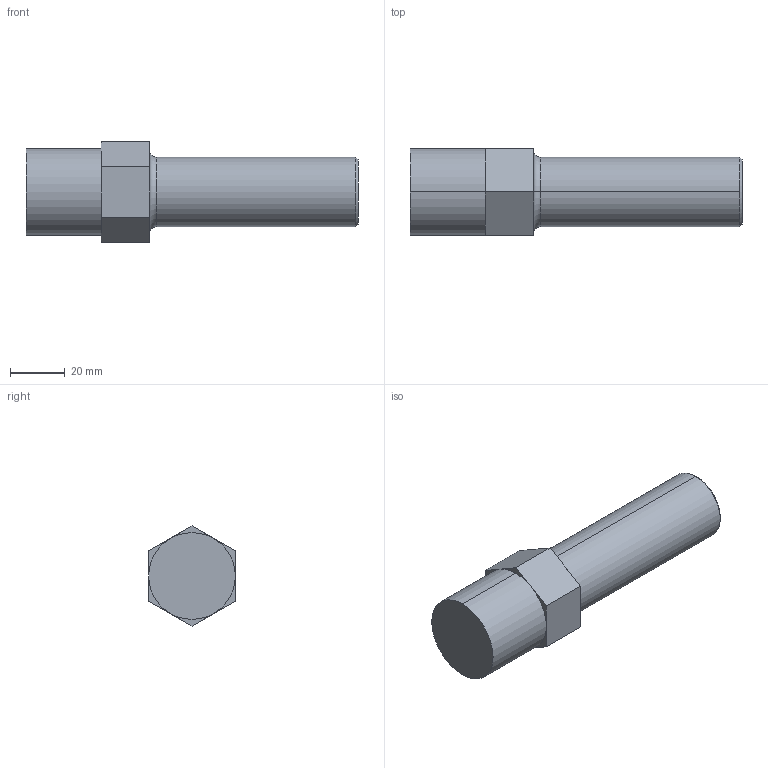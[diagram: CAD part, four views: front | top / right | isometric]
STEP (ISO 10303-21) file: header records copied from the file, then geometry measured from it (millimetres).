
FILE_DESCRIPTION (( 'STEP AP214' ), '1' );
FILE_NAME ('Fitting Tubeout 16.STEP', '2012-09-26T21:49:43', ( '' ), ( '' ), 'SwSTEP 2.0', 'SolidWorks 2012', '' );
FILE_SCHEMA (( 'AUTOMOTIVE_DESIGN' ));
Length unit declared in the file: inch
Products named in the file (1): Fitting Tubeout 16
Bounding box: 121.56 x 31.75 x 36.66 mm (x, y, z)
Volume: 76049.4 mm3; surface area: 12418.7 mm2
Topology: 1 solids, 1 shells, 23 faces, 50 edges, 30 vertices
Faces by surface type: plane 15, cylinder 4, torus 2, cone 2
Entity records: 703 total; most frequent: DIRECTION 118, CARTESIAN_POINT 104, ORIENTED_EDGE 100, EDGE_CURVE 50, AXIS2_PLACEMENT_3D 44, VERTEX_POINT 30, LINE 30, VECTOR 30
